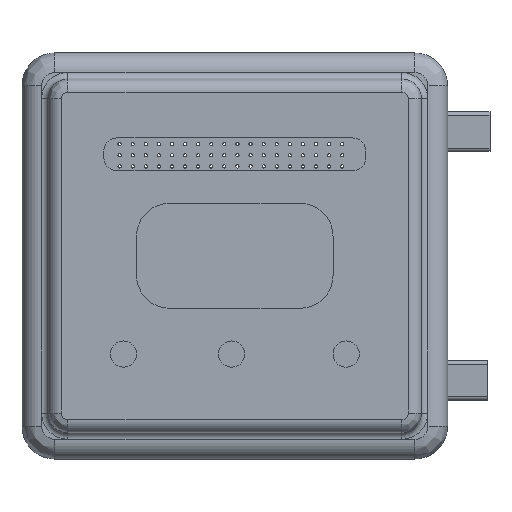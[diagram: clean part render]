
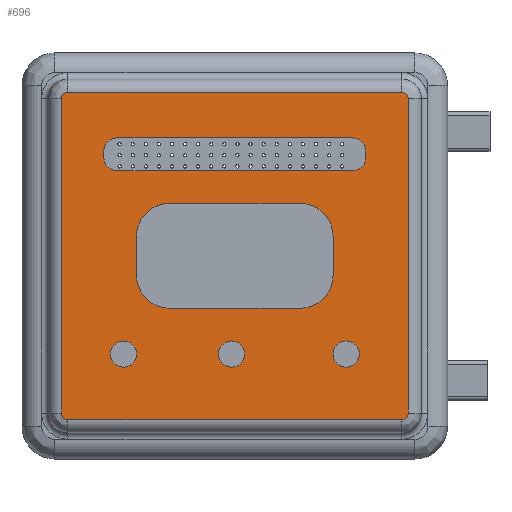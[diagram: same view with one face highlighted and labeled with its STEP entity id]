
A CAD part, top view. The second image highlights one B-rep face of the part: STEP entity #696.
In plain terms, the highlighted planar face has unit normal (0, 0, 1).
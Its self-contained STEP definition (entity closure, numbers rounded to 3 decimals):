
#696=ADVANCED_FACE('',(#1133,#1134,#1135,#1136,#1137,#1138),#996,.T.);
#996=PLANE('',#5938);
#1133=FACE_BOUND('',#1461,.T.);
#1134=FACE_BOUND('',#1462,.T.);
#1135=FACE_BOUND('',#1463,.T.);
#1136=FACE_BOUND('',#1464,.T.);
#1137=FACE_BOUND('',#1465,.T.);
#1138=FACE_BOUND('',#1466,.T.);
#1461=EDGE_LOOP('',(#2548));
#1462=EDGE_LOOP('',(#2549));
#1463=EDGE_LOOP('',(#2550));
#1464=EDGE_LOOP('',(#2551,#2552,#2553,#2554,#2555,#2556,#2557,#2558));
#1465=EDGE_LOOP('',(#2559,#2560,#2561,#2562,#2563,#2564,#2565,#2566));
#1466=EDGE_LOOP('',(#2567,#2568,#2569,#2570,#2571,#2572,#2573,#2574));
#2014=CIRCLE('',#5923,2.);
#2015=CIRCLE('',#5924,2.);
#2016=CIRCLE('',#5925,2.);
#2017=CIRCLE('',#5926,1.);
#2018=CIRCLE('',#5927,1.);
#2019=CIRCLE('',#5928,1.);
#2020=CIRCLE('',#5929,1.);
#2021=CIRCLE('',#5930,5.);
#2022=CIRCLE('',#5931,5.);
#2023=CIRCLE('',#5932,5.);
#2024=CIRCLE('',#5933,5.);
#2025=CIRCLE('',#5934,2.);
#2026=CIRCLE('',#5935,2.);
#2027=CIRCLE('',#5936,2.);
#2028=CIRCLE('',#5937,2.);
#2548=ORIENTED_EDGE('',*,*,#4530,.T.);
#2549=ORIENTED_EDGE('',*,*,#4531,.T.);
#2550=ORIENTED_EDGE('',*,*,#4532,.T.);
#2551=ORIENTED_EDGE('',*,*,#4533,.T.);
#2552=ORIENTED_EDGE('',*,*,#4534,.T.);
#2553=ORIENTED_EDGE('',*,*,#4535,.T.);
#2554=ORIENTED_EDGE('',*,*,#4536,.T.);
#2555=ORIENTED_EDGE('',*,*,#4537,.T.);
#2556=ORIENTED_EDGE('',*,*,#4538,.T.);
#2557=ORIENTED_EDGE('',*,*,#4539,.T.);
#2558=ORIENTED_EDGE('',*,*,#4540,.T.);
#2559=ORIENTED_EDGE('',*,*,#4541,.T.);
#2560=ORIENTED_EDGE('',*,*,#4542,.T.);
#2561=ORIENTED_EDGE('',*,*,#4543,.T.);
#2562=ORIENTED_EDGE('',*,*,#4544,.T.);
#2563=ORIENTED_EDGE('',*,*,#4545,.T.);
#2564=ORIENTED_EDGE('',*,*,#4546,.T.);
#2565=ORIENTED_EDGE('',*,*,#4547,.T.);
#2566=ORIENTED_EDGE('',*,*,#4548,.T.);
#2567=ORIENTED_EDGE('',*,*,#4549,.T.);
#2568=ORIENTED_EDGE('',*,*,#4550,.T.);
#2569=ORIENTED_EDGE('',*,*,#4551,.T.);
#2570=ORIENTED_EDGE('',*,*,#4552,.T.);
#2571=ORIENTED_EDGE('',*,*,#4553,.T.);
#2572=ORIENTED_EDGE('',*,*,#4554,.T.);
#2573=ORIENTED_EDGE('',*,*,#4555,.T.);
#2574=ORIENTED_EDGE('',*,*,#4556,.T.);
#3964=VERTEX_POINT('',#8934);
#3965=VERTEX_POINT('',#8936);
#3966=VERTEX_POINT('',#8938);
#3967=VERTEX_POINT('',#8940);
#3968=VERTEX_POINT('',#8941);
#3969=VERTEX_POINT('',#8943);
#3970=VERTEX_POINT('',#8945);
#3971=VERTEX_POINT('',#8947);
#3972=VERTEX_POINT('',#8949);
#3973=VERTEX_POINT('',#8951);
#3974=VERTEX_POINT('',#8953);
#3975=VERTEX_POINT('',#8956);
#3976=VERTEX_POINT('',#8957);
#3977=VERTEX_POINT('',#8959);
#3978=VERTEX_POINT('',#8961);
#3979=VERTEX_POINT('',#8963);
#3980=VERTEX_POINT('',#8965);
#3981=VERTEX_POINT('',#8967);
#3982=VERTEX_POINT('',#8969);
#3983=VERTEX_POINT('',#8972);
#3984=VERTEX_POINT('',#8973);
#3985=VERTEX_POINT('',#8975);
#3986=VERTEX_POINT('',#8977);
#3987=VERTEX_POINT('',#8979);
#3988=VERTEX_POINT('',#8981);
#3989=VERTEX_POINT('',#8983);
#3990=VERTEX_POINT('',#8985);
#4530=EDGE_CURVE('',#3964,#3964,#2014,.T.);
#4531=EDGE_CURVE('',#3965,#3965,#2015,.T.);
#4532=EDGE_CURVE('',#3966,#3966,#2016,.T.);
#4533=EDGE_CURVE('',#3967,#3968,#5183,.T.);
#4534=EDGE_CURVE('',#3968,#3969,#2017,.T.);
#4535=EDGE_CURVE('',#3969,#3970,#5184,.T.);
#4536=EDGE_CURVE('',#3970,#3971,#2018,.T.);
#4537=EDGE_CURVE('',#3971,#3972,#5185,.T.);
#4538=EDGE_CURVE('',#3972,#3973,#2019,.T.);
#4539=EDGE_CURVE('',#3973,#3974,#5186,.T.);
#4540=EDGE_CURVE('',#3974,#3967,#2020,.T.);
#4541=EDGE_CURVE('',#3975,#3976,#5187,.T.);
#4542=EDGE_CURVE('',#3976,#3977,#2021,.T.);
#4543=EDGE_CURVE('',#3977,#3978,#5188,.T.);
#4544=EDGE_CURVE('',#3978,#3979,#2022,.T.);
#4545=EDGE_CURVE('',#3979,#3980,#5189,.T.);
#4546=EDGE_CURVE('',#3980,#3981,#2023,.T.);
#4547=EDGE_CURVE('',#3981,#3982,#5190,.T.);
#4548=EDGE_CURVE('',#3982,#3975,#2024,.T.);
#4549=EDGE_CURVE('',#3983,#3984,#5191,.T.);
#4550=EDGE_CURVE('',#3984,#3985,#2025,.T.);
#4551=EDGE_CURVE('',#3985,#3986,#5192,.T.);
#4552=EDGE_CURVE('',#3986,#3987,#2026,.T.);
#4553=EDGE_CURVE('',#3987,#3988,#5193,.T.);
#4554=EDGE_CURVE('',#3988,#3989,#2027,.T.);
#4555=EDGE_CURVE('',#3989,#3990,#5194,.T.);
#4556=EDGE_CURVE('',#3990,#3983,#2028,.T.);
#5183=LINE('',#8939,#5560);
#5184=LINE('',#8944,#5561);
#5185=LINE('',#8948,#5562);
#5186=LINE('',#8952,#5563);
#5187=LINE('',#8955,#5564);
#5188=LINE('',#8960,#5565);
#5189=LINE('',#8964,#5566);
#5190=LINE('',#8968,#5567);
#5191=LINE('',#8971,#5568);
#5192=LINE('',#8976,#5569);
#5193=LINE('',#8980,#5570);
#5194=LINE('',#8984,#5571);
#5560=VECTOR('',#6829,1.);
#5561=VECTOR('',#6832,1.);
#5562=VECTOR('',#6835,1.);
#5563=VECTOR('',#6838,1.);
#5564=VECTOR('',#6841,1.);
#5565=VECTOR('',#6844,1.);
#5566=VECTOR('',#6847,1.);
#5567=VECTOR('',#6850,1.);
#5568=VECTOR('',#6853,1.);
#5569=VECTOR('',#6856,1.);
#5570=VECTOR('',#6859,1.);
#5571=VECTOR('',#6862,1.);
#5923=AXIS2_PLACEMENT_3D('',#8933,#6823,#6824);
#5924=AXIS2_PLACEMENT_3D('',#8935,#6825,#6826);
#5925=AXIS2_PLACEMENT_3D('',#8937,#6827,#6828);
#5926=AXIS2_PLACEMENT_3D('',#8942,#6830,#6831);
#5927=AXIS2_PLACEMENT_3D('',#8946,#6833,#6834);
#5928=AXIS2_PLACEMENT_3D('',#8950,#6836,#6837);
#5929=AXIS2_PLACEMENT_3D('',#8954,#6839,#6840);
#5930=AXIS2_PLACEMENT_3D('',#8958,#6842,#6843);
#5931=AXIS2_PLACEMENT_3D('',#8962,#6845,#6846);
#5932=AXIS2_PLACEMENT_3D('',#8966,#6848,#6849);
#5933=AXIS2_PLACEMENT_3D('',#8970,#6851,#6852);
#5934=AXIS2_PLACEMENT_3D('',#8974,#6854,#6855);
#5935=AXIS2_PLACEMENT_3D('',#8978,#6857,#6858);
#5936=AXIS2_PLACEMENT_3D('',#8982,#6860,#6861);
#5937=AXIS2_PLACEMENT_3D('',#8986,#6863,#6864);
#5938=AXIS2_PLACEMENT_3D('',#8987,#6865,#6866);
#6823=DIRECTION('',(0.,0.,-1.));
#6824=DIRECTION('',(1.,0.,0.));
#6825=DIRECTION('',(0.,0.,-1.));
#6826=DIRECTION('',(1.,0.,0.));
#6827=DIRECTION('',(0.,0.,-1.));
#6828=DIRECTION('',(1.,0.,0.));
#6829=DIRECTION('',(0.,1.,0.));
#6830=DIRECTION('',(0.,0.,1.));
#6831=DIRECTION('',(1.,0.,0.));
#6832=DIRECTION('',(-1.,0.,0.));
#6833=DIRECTION('',(0.,0.,1.));
#6834=DIRECTION('',(1.,0.,0.));
#6835=DIRECTION('',(0.,-1.,0.));
#6836=DIRECTION('',(0.,0.,1.));
#6837=DIRECTION('',(1.,0.,0.));
#6838=DIRECTION('',(1.,0.,0.));
#6839=DIRECTION('',(0.,0.,1.));
#6840=DIRECTION('',(1.,0.,0.));
#6841=DIRECTION('',(0.,-1.,0.));
#6842=DIRECTION('',(0.,0.,-1.));
#6843=DIRECTION('',(1.,0.,0.));
#6844=DIRECTION('',(-1.,0.,0.));
#6845=DIRECTION('',(0.,0.,-1.));
#6846=DIRECTION('',(1.,0.,0.));
#6847=DIRECTION('',(0.,1.,0.));
#6848=DIRECTION('',(0.,0.,-1.));
#6849=DIRECTION('',(1.,0.,0.));
#6850=DIRECTION('',(1.,0.,0.));
#6851=DIRECTION('',(0.,0.,-1.));
#6852=DIRECTION('',(1.,0.,0.));
#6853=DIRECTION('',(0.,-1.,0.));
#6854=DIRECTION('',(0.,0.,-1.));
#6855=DIRECTION('',(1.,0.,0.));
#6856=DIRECTION('',(-1.,0.,0.));
#6857=DIRECTION('',(0.,0.,-1.));
#6858=DIRECTION('',(1.,0.,0.));
#6859=DIRECTION('',(0.,1.,0.));
#6860=DIRECTION('',(0.,0.,-1.));
#6861=DIRECTION('',(1.,0.,0.));
#6862=DIRECTION('',(1.,0.,0.));
#6863=DIRECTION('',(0.,0.,-1.));
#6864=DIRECTION('',(1.,0.,0.));
#6865=DIRECTION('',(0.,0.,1.));
#6866=DIRECTION('',(1.,0.,0.));
#8933=CARTESIAN_POINT('',(-17.,-15.,18.));
#8934=CARTESIAN_POINT('',(-15.,-15.,18.));
#8935=CARTESIAN_POINT('',(-0.492,-15.,18.));
#8936=CARTESIAN_POINT('',(1.508,-15.,18.));
#8937=CARTESIAN_POINT('',(17.,-15.,18.));
#8938=CARTESIAN_POINT('',(19.,-15.,18.));
#8939=CARTESIAN_POINT('',(26.5,24.,18.));
#8940=CARTESIAN_POINT('',(26.5,-24.,18.));
#8941=CARTESIAN_POINT('',(26.5,24.,18.));
#8942=CARTESIAN_POINT('',(25.5,24.,18.));
#8943=CARTESIAN_POINT('',(25.5,25.,18.));
#8944=CARTESIAN_POINT('',(-25.5,25.,18.));
#8945=CARTESIAN_POINT('',(-25.5,25.,18.));
#8946=CARTESIAN_POINT('',(-25.5,24.,18.));
#8947=CARTESIAN_POINT('',(-26.5,24.,18.));
#8948=CARTESIAN_POINT('',(-26.5,-24.,18.));
#8949=CARTESIAN_POINT('',(-26.5,-24.,18.));
#8950=CARTESIAN_POINT('',(-25.5,-24.,18.));
#8951=CARTESIAN_POINT('',(-25.5,-25.,18.));
#8952=CARTESIAN_POINT('',(25.5,-25.,18.));
#8953=CARTESIAN_POINT('',(25.5,-25.,18.));
#8954=CARTESIAN_POINT('',(25.5,-24.,18.));
#8955=CARTESIAN_POINT('',(15.,0.,18.));
#8956=CARTESIAN_POINT('',(15.,3.,18.));
#8957=CARTESIAN_POINT('',(15.,-3.,18.));
#8958=CARTESIAN_POINT('',(10.,-3.,18.));
#8959=CARTESIAN_POINT('',(10.,-8.,18.));
#8960=CARTESIAN_POINT('',(0.,-8.,18.));
#8961=CARTESIAN_POINT('',(-10.,-8.,18.));
#8962=CARTESIAN_POINT('',(-10.,-3.,18.));
#8963=CARTESIAN_POINT('',(-15.,-3.,18.));
#8964=CARTESIAN_POINT('',(-15.,0.,18.));
#8965=CARTESIAN_POINT('',(-15.,3.,18.));
#8966=CARTESIAN_POINT('',(-10.,3.,18.));
#8967=CARTESIAN_POINT('',(-10.,8.,18.));
#8968=CARTESIAN_POINT('',(0.,8.,18.));
#8969=CARTESIAN_POINT('',(10.,8.,18.));
#8970=CARTESIAN_POINT('',(10.,3.,18.));
#8971=CARTESIAN_POINT('',(20.,0.,18.));
#8972=CARTESIAN_POINT('',(20.,16.,18.));
#8973=CARTESIAN_POINT('',(20.,15.,18.));
#8974=CARTESIAN_POINT('',(18.,15.,18.));
#8975=CARTESIAN_POINT('',(18.,13.,18.));
#8976=CARTESIAN_POINT('',(0.,13.,18.));
#8977=CARTESIAN_POINT('',(-18.,13.,18.));
#8978=CARTESIAN_POINT('',(-18.,15.,18.));
#8979=CARTESIAN_POINT('',(-20.,15.,18.));
#8980=CARTESIAN_POINT('',(-20.,0.,18.));
#8981=CARTESIAN_POINT('',(-20.,16.,18.));
#8982=CARTESIAN_POINT('',(-18.,16.,18.));
#8983=CARTESIAN_POINT('',(-18.,18.,18.));
#8984=CARTESIAN_POINT('',(0.,18.,18.));
#8985=CARTESIAN_POINT('',(18.,18.,18.));
#8986=CARTESIAN_POINT('',(18.,16.,18.));
#8987=CARTESIAN_POINT('',(0.,0.,18.));
